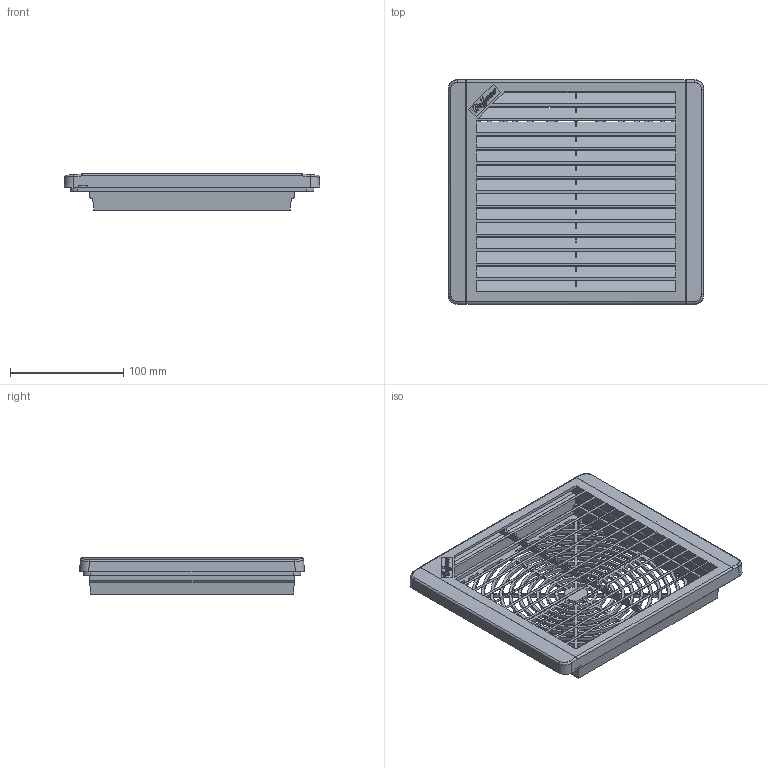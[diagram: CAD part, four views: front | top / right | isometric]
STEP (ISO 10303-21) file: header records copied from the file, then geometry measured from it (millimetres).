
FILE_DESCRIPTION(( 'STEP AP214 file generated by I-DEAS Master Series'),'2;1');
FILE_NAME('D:\a00150\t-ep6ul12.stp','2002-06-05T10:39:01',('A00150'),( 'unspecified'),'I-DEAS Master Series 7m2 : Design', 'I-DEAS Master Series 7m2 : Design','unspecified');
FILE_SCHEMA(('AUTOMOTIVE_DESIGN_CC2 { 1 2 10303 214 -1 1 5 3 }'));
Length unit declared in the file: inch
Products named in the file (4): 6_inch_pkg_bbs; 87555311; 87559980; gskt_type_12_6in_fan
Assembly tree (3 placements, depth 2):
  6_inch_pkg_bbs
    87555311
    87559980
    gskt_type_12_6in_fan
Bounding box: 225.17 x 197.99 x 31.88 mm (x, y, z)
Volume: 218932.3 mm3; surface area: 249798.6 mm2
Topology: 3 solids, 3 shells, 1346 faces, 3892 edges, 2571 vertices
Faces by surface type: bspline 1346
Entity records: 51587 total; most frequent: CARTESIAN_POINT 29218, ORIENTED_EDGE 7776, EDGE_CURVE 3888, VERTEX_POINT 2569, EDGE_LOOP 1645, FACE_OUTER_BOUND 1346, ADVANCED_FACE 1346, B_SPLINE_CURVE_WITH_KNOTS 1294
